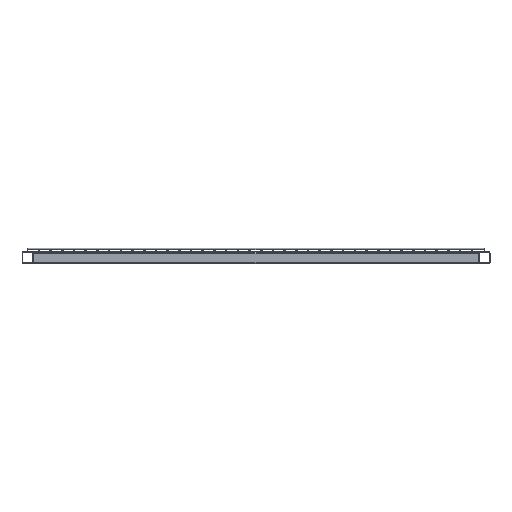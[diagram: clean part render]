
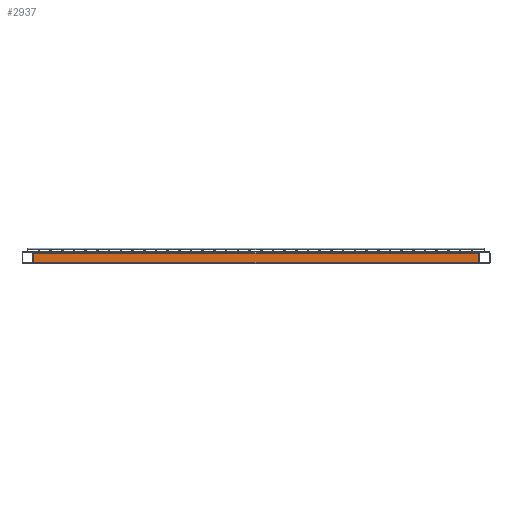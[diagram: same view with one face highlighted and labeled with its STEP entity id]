
A CAD part, front view. The second image highlights one B-rep face of the part: STEP entity #2937.
In plain terms, the highlighted planar face has unit normal (0, -1, 0).
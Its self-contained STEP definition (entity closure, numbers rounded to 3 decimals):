
#76 = CARTESIAN_POINT ( 'NONE',  ( 380., -844., 8. ) ) ;
#78 = CARTESIAN_POINT ( 'NONE',  ( -380., -844., -8. ) ) ;
#90 = DIRECTION ( 'NONE',  ( 0., 0., 1. ) ) ;
#353 = EDGE_CURVE ( 'NONE', #7704, #6993, #5512, .T. ) ;
#441 = CARTESIAN_POINT ( 'NONE',  ( 380., -844., -8. ) ) ;
#705 = PLANE ( 'NONE',  #923 ) ;
#923 = AXIS2_PLACEMENT_3D ( 'NONE', #3292, #5863, #90 ) ;
#1034 = CARTESIAN_POINT ( 'NONE',  ( 380., -844., -8. ) ) ;
#1089 = CARTESIAN_POINT ( 'NONE',  ( 400., -844., -8. ) ) ;
#1524 = VECTOR ( 'NONE', #7401, 1000. ) ;
#1707 = EDGE_CURVE ( 'NONE', #7704, #4546, #7944, .T. ) ;
#1719 = DIRECTION ( 'NONE',  ( 0., 0., 1. ) ) ;
#1730 = LINE ( 'NONE', #1089, #1524 ) ;
#2077 = DIRECTION ( 'NONE',  ( -1., 0., 0. ) ) ;
#2285 = VERTEX_POINT ( 'NONE', #78 ) ;
#2475 = CARTESIAN_POINT ( 'NONE',  ( -380., -844., 8. ) ) ;
#2903 = DIRECTION ( 'NONE',  ( 0., 0., -1. ) ) ;
#2937 = ADVANCED_FACE ( 'NONE', ( #8329 ), #705, .F. ) ;
#3028 = ORIENTED_EDGE ( 'NONE', *, *, #1707, .T. ) ;
#3035 = LINE ( 'NONE', #4856, #4098 ) ;
#3292 = CARTESIAN_POINT ( 'NONE',  ( 400., -844., -8. ) ) ;
#3739 = VECTOR ( 'NONE', #2077, 1000. ) ;
#4098 = VECTOR ( 'NONE', #1719, 1000. ) ;
#4115 = ORIENTED_EDGE ( 'NONE', *, *, #353, .F. ) ;
#4546 = VERTEX_POINT ( 'NONE', #2475 ) ;
#4856 = CARTESIAN_POINT ( 'NONE',  ( -380., -844., -8. ) ) ;
#5220 = ORIENTED_EDGE ( 'NONE', *, *, #5790, .F. ) ;
#5318 = CARTESIAN_POINT ( 'NONE',  ( 400., -844., 8. ) ) ;
#5381 = EDGE_CURVE ( 'NONE', #6993, #2285, #1730, .T. ) ;
#5512 = LINE ( 'NONE', #1034, #7418 ) ;
#5790 = EDGE_CURVE ( 'NONE', #2285, #4546, #3035, .T. ) ;
#5863 = DIRECTION ( 'NONE',  ( 0., 1., 0. ) ) ;
#6993 = VERTEX_POINT ( 'NONE', #441 ) ;
#7401 = DIRECTION ( 'NONE',  ( -1., 0., 0. ) ) ;
#7418 = VECTOR ( 'NONE', #2903, 1000. ) ;
#7601 = EDGE_LOOP ( 'NONE', ( #5220, #7752, #4115, #3028 ) ) ;
#7704 = VERTEX_POINT ( 'NONE', #76 ) ;
#7752 = ORIENTED_EDGE ( 'NONE', *, *, #5381, .F. ) ;
#7944 = LINE ( 'NONE', #5318, #3739 ) ;
#8329 = FACE_OUTER_BOUND ( 'NONE', #7601, .T. ) ;
